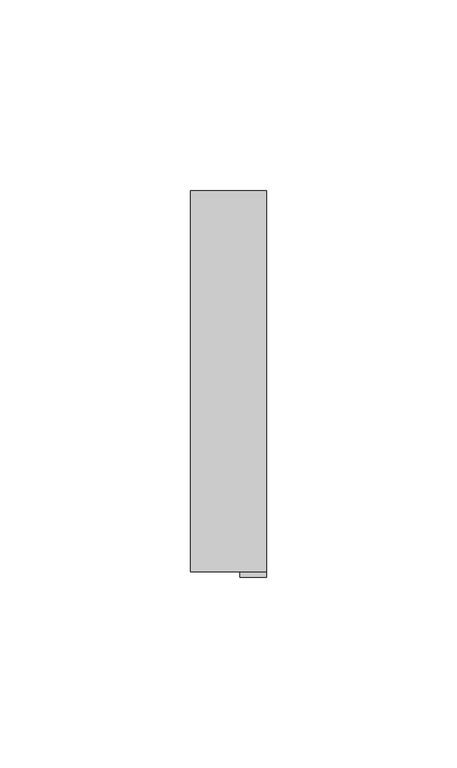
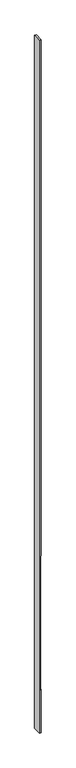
"""IFC4 building model written with IfcOpenShell, lengths in millimetres: plate geometry, システム パネルなし : なし."""

import ifcopenshell
import ifcopenshell.guid

model = None  # the IFC model being written
_history = None  # IfcOwnerHistory: only IFC2X3 demands one
_inside = {}  # id of a spatial element -> (the spatial element, [elements in it])
_under = {}  # id of a project, library or spatial element -> (it, [spatial elements below it])
_declared = {}  # id of a project -> (the project, [libraries it declares])
_typed = {}  # id of a type object -> (the type object, [elements of that type])
_made_of = {}  # id of a material, layer set ... -> (it, [elements and type objects made of it])


def new_model(schema):
    """Start an empty IFC model of exactly this schema.

    Asked for "IFC4X3", IfcOpenShell would pick the latest addendum, in which some entities
    have other attributes; the version numbers below select the first issue.
    IFC2X3 requires an IfcOwnerHistory on every rooted entity: one is made here for all.
    """
    global model, _history
    if schema == "IFC4X3":
        model = ifcopenshell.file(schema_version=(4, 3, 0, 0))
    else:
        model = ifcopenshell.file(schema=schema)
    _inside.clear()
    _under.clear()
    _declared.clear()
    _typed.clear()
    _made_of.clear()
    _history = None
    if model.schema == "IFC2X3":
        org = make("IfcOrganization", Name="unknown")
        user = make(
            "IfcPersonAndOrganization",
            ThePerson=make("IfcPerson", FamilyName="unknown"),
            TheOrganization=org,
        )
        app = make(
            "IfcApplication",
            ApplicationDeveloper=org,
            Version="unknown",
            ApplicationFullName="unknown",
            ApplicationIdentifier="unknown",
        )
        _history = make(
            "IfcOwnerHistory",
            OwningUser=user,
            OwningApplication=app,
            ChangeAction="ADDED",
            CreationDate=0,
        )
    return model


def make(cls, **values):
    """One entity of the class cls with the attributes given. An attribute that is None is left unset."""
    return model.create_entity(
        cls, **{name: value for name, value in values.items() if value is not None}
    )


def rooted(cls, **values):
    """An entity with a GlobalId (a new one), such as an element, a storey or a relation."""
    return make(cls, GlobalId=ifcopenshell.guid.new(), OwnerHistory=_history, **values)


def si_unit(unit_type, name, prefix=None):
    """IfcSIUnit, for example si_unit("LENGTHUNIT", "METRE", prefix="MILLI")."""
    return make("IfcSIUnit", UnitType=unit_type, Prefix=prefix, Name=name)


def assignment(units):
    """IfcUnitAssignment: the units of a project."""
    return None if units is None else make("IfcUnitAssignment", Units=units)


def point(xyz):
    """IfcCartesianPoint."""
    return None if xyz is None else make("IfcCartesianPoint", Coordinates=xyz)


def direction(xyz):
    """IfcDirection."""
    return None if xyz is None else make("IfcDirection", DirectionRatios=xyz)


def frame(location, z_axis=None, x_axis=None):
    """IfcAxis2Placement3D, a coordinate frame: its origin and axes. An axis left out is left unset."""
    return make(
        "IfcAxis2Placement3D",
        Location=point(location),
        Axis=direction(z_axis),
        RefDirection=direction(x_axis),
    )


def origin():
    """The frame at (0, 0, 0) with its axes left unset."""
    return frame((0.0, 0.0, 0.0))


def place(relative_to, where):
    """IfcLocalPlacement: puts the frame where relative to a parent placement (None: the world)."""
    return make(
        "IfcLocalPlacement", PlacementRelTo=relative_to, RelativePlacement=where
    )


def context(
    kind, dimensions, precision=None, world=None, true_north=None, identifier=None
):
    """IfcGeometricRepresentationContext, for example the 3D "Model" context."""
    return make(
        "IfcGeometricRepresentationContext",
        ContextIdentifier=identifier,
        ContextType=kind,
        CoordinateSpaceDimension=dimensions,
        Precision=precision,
        WorldCoordinateSystem=world,
        TrueNorth=true_north,
    )


def project(units=None, contexts=None):
    """IfcProject with its units and contexts."""
    return rooted(
        "IfcProject",
        Name="project",
        RepresentationContexts=contexts,
        UnitsInContext=assignment(units),
    )


def spatial(cls, under=None, at=None, **own):
    """A site, building, storey or space (cls), placed at a placement, below another one or the project."""
    s = rooted(cls, ObjectPlacement=at, **own)
    if under is not None:
        _under.setdefault(under.id(), (under, []))[1].append(s)
    return s


def polyline(points):
    """IfcPolyline through the points."""
    return make("IfcPolyline", Points=[point(p) for p in points])


def outline(outer, holes=None, kind="AREA"):
    """IfcArbitraryClosedProfileDef: a profile drawn as a closed curve; with holes, ...WithVoids."""
    if holes is None:
        return make("IfcArbitraryClosedProfileDef", ProfileType=kind, OuterCurve=outer)
    return make(
        "IfcArbitraryProfileDefWithVoids",
        ProfileType=kind,
        OuterCurve=outer,
        InnerCurves=holes,
    )


def extrude(swept, where, along, depth):
    """IfcExtrudedAreaSolid: the profile swept, set in the frame where, extruded along a direction by depth."""
    return make(
        "IfcExtrudedAreaSolid",
        SweptArea=swept,
        Position=where,
        ExtrudedDirection=direction(along),
        Depth=depth,
    )


def shape(context_of_items, identifier, shape_type, items):
    """IfcShapeRepresentation: the items that make up one representation, for example the "Body"."""
    return make(
        "IfcShapeRepresentation",
        ContextOfItems=context_of_items,
        RepresentationIdentifier=identifier,
        RepresentationType=shape_type,
        Items=items,
    )


def source(mapping_origin, context_of_items, identifier, shape_type, items):
    """IfcRepresentationMap: a shape defined once, which mapped items show again and again."""
    return make(
        "IfcRepresentationMap",
        MappingOrigin=mapping_origin,
        MappedRepresentation=shape(context_of_items, identifier, shape_type, items),
    )


def transform(
    local_origin,
    x_axis=None,
    y_axis=None,
    z_axis=None,
    scale=None,
    scale2=None,
    scale3=None,
    uniform=True,
):
    """IfcCartesianTransformationOperator3D, or its non-uniform kind. x_axis, y_axis, z_axis: its Axis1, 2, 3."""
    if uniform:
        return make(
            "IfcCartesianTransformationOperator3D",
            Axis1=direction(x_axis),
            Axis2=direction(y_axis),
            LocalOrigin=point(local_origin),
            Scale=scale,
            Axis3=direction(z_axis),
        )
    return make(
        "IfcCartesianTransformationOperator3DnonUniform",
        Axis1=direction(x_axis),
        Axis2=direction(y_axis),
        LocalOrigin=point(local_origin),
        Scale=scale,
        Axis3=direction(z_axis),
        Scale2=scale2,
        Scale3=scale3,
    )


def mapped(mapping_source, mapping_target):
    """IfcMappedItem: shows the shape of a source again, moved by a transform."""
    return make(
        "IfcMappedItem", MappingSource=mapping_source, MappingTarget=mapping_target
    )


def made_of(thing, what):
    """Note that an element or type object is made of a material, layer set ...; save() writes the relation."""
    if what is not None:
        _made_of.setdefault(what.id(), (what, []))[1].append(thing)
    return thing


def element(
    cls,
    number,
    at=None,
    inside=None,
    cuts=None,
    type_object=None,
    material=None,
    context=None,
    identifier="Body",
    shape_type=None,
    held_by="IfcProductDefinitionShape",
    body=None,
    shapes=None,
    **own,
):
    """One element of the class cls, such as IfcWall. Its Tag is "e" and its number.

    at: its placement. inside: the storey or other place that contains it. cuts: it is an
    opening in that element (IfcRelVoidsElement). A single representation is given by context,
    identifier, shape_type and body (its items); several are given by shapes. held_by: the class
    of the entity that holds the representations. save() writes the other relations.
    """
    e = rooted(cls, Tag="e%d" % number, ObjectPlacement=at, **own)
    if body is not None:
        shapes = [shape(context, identifier, shape_type, body)]
    if shapes is not None:
        e.Representation = make(held_by, Representations=shapes)
    if inside is not None:
        _inside.setdefault(inside.id(), (inside, []))[1].append(e)
    if cuts is not None:
        rooted(
            "IfcRelVoidsElement", RelatingBuildingElement=cuts, RelatedOpeningElement=e
        )
    if type_object is not None:
        _typed.setdefault(type_object.id(), (type_object, []))[1].append(e)
    return made_of(e, material)


def aggregate(whole, parts):
    """IfcRelAggregates: a whole, such as a stair, and the parts it consists of."""
    return rooted("IfcRelAggregates", RelatingObject=whole, RelatedObjects=parts)


def save(model, path):
    """Write the relations noted so far, then the file.

    IfcRelAggregates (storeys below a building ...), IfcRelContainedInSpatialStructure (elements
    in a storey), IfcRelDefinesByType, IfcRelAssociatesMaterial and IfcRelDeclares: one each for
    every whole, place, type object, material and project.
    """
    for whole, parts in _under.values():
        aggregate(whole, parts)
    for where, things in _inside.values():
        rooted(
            "IfcRelContainedInSpatialStructure",
            RelatedElements=things,
            RelatingStructure=where,
        )
    for kind, things in _typed.values():
        rooted("IfcRelDefinesByType", RelatedObjects=things, RelatingType=kind)
    for what, things in _made_of.values():
        rooted("IfcRelAssociatesMaterial", RelatedObjects=things, RelatingMaterial=what)
    for by, libraries in _declared.values():
        rooted("IfcRelDeclares", RelatingContext=by, RelatedDefinitions=libraries)
    model.write(path)


def plate_564b02af(model_context):
    return source(origin(), model_context, "Body", "SweptSolid", [
        extrude(outline(polyline([(0.0, -10.0), (0.0, 10.0), (554.2905914, 10.0), (554.2905914, 3.0), (2274.2905914, 3.0), (2274.2905914, 10.0), (8902.0, 10.0), (8902.0, -10.0), (0.0, -10.0)])), frame((0.0, -50.0, 0.0), z_axis=(0.0, 1.0, 0.0), x_axis=(0.0, 0.0, 1.0)), (0.0, 0.0, 1.0), 100.0),
    ])


if __name__ == "__main__":
    model = new_model("IFC4")
    model_context = context("Model", 3, world=origin())
    ifc_project = project(units=[si_unit("LENGTHUNIT", "METRE", prefix="MILLI")], contexts=[model_context])
    site = spatial("IfcSite", under=ifc_project)
    building = spatial("IfcBuilding", under=site)
    placement = place(None, origin())
    plate_shape = plate_564b02af(model_context)
    element("IfcPlate", 1, ObjectType="システム パネルなし : なし", at=placement, inside=building, context=model_context, shape_type="MappedRepresentation", body=[
        mapped(plate_shape, transform((0.0, 0.0, 0.0), x_axis=(1.0, 0.0, 0.0), y_axis=(0.0, 1.0, 0.0), z_axis=(0.0, 0.0, 1.0))),
    ])
    save(model, "model.ifc")
